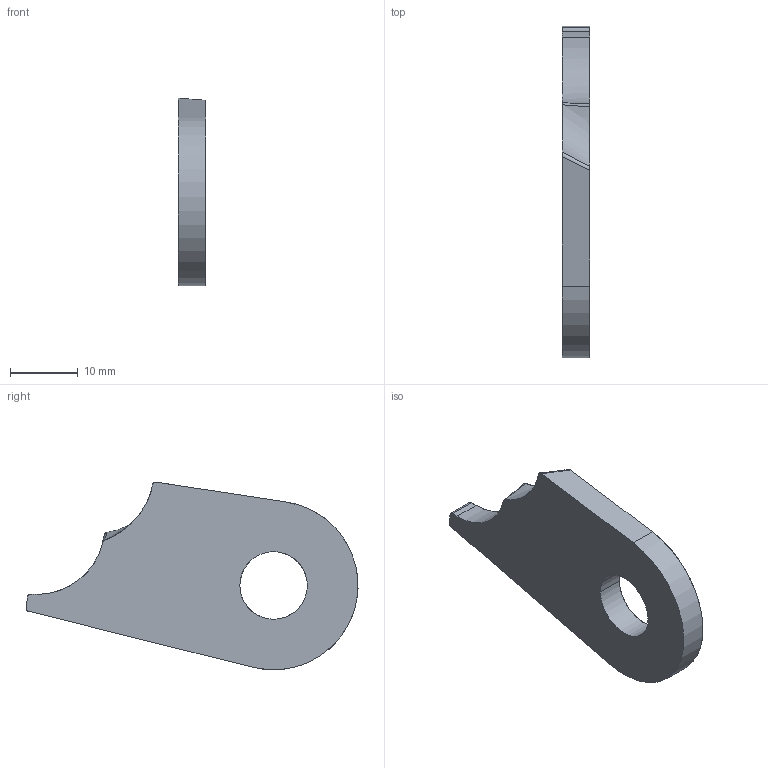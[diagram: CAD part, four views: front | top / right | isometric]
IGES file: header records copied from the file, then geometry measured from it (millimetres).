
Start section: START RECORD GO HERE.
Global section: file name: EN_06129 (Chape PE Droit Haut 1).igs; native system: IBM CATIA IGES - CATIA Version 5 Release 19 ; preprocessor: CATIA Version 5 Release 19 ; author: Martin Kawczynski; organization: DESKTOP-UDLM1FC; date: 20200104.165018; units: millimetre
Bounding box: 4 x 49.16 x 27.79 mm (x, y, z)
Surface area: 2203.8 mm2 (no closed solid volume)
Topology: 0 solids, 0 shells, 15 faces, 78 edges, 78 vertices
Faces by surface type: revolution 8, plane 5, bspline 2
